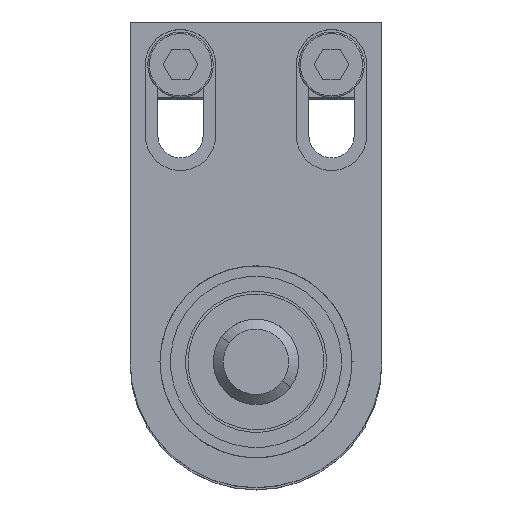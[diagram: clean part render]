
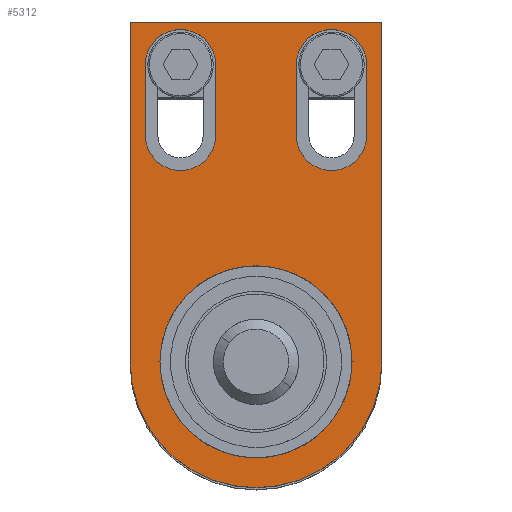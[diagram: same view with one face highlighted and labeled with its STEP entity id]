
A CAD part, top view. The second image highlights one B-rep face of the part: STEP entity #5312.
In plain terms, the highlighted planar face has unit normal (0, 0, 1).
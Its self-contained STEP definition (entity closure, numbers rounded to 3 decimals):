
#25 = CIRCLE ( 'NONE', #4679, 7. ) ;
#43 = VERTEX_POINT ( 'NONE', #5862 ) ;
#89 = ORIENTED_EDGE ( 'NONE', *, *, #1097, .F. ) ;
#227 = DIRECTION ( 'NONE',  ( 0., 0., 1. ) ) ;
#281 = CARTESIAN_POINT ( 'NONE',  ( 25., 67.5, 6. ) ) ;
#457 = VERTEX_POINT ( 'NONE', #1744 ) ;
#491 = LINE ( 'NONE', #2581, #2169 ) ;
#501 = EDGE_CURVE ( 'NONE', #4038, #43, #25, .T. ) ;
#509 = EDGE_LOOP ( 'NONE', ( #1669, #4546, #971, #5605 ) ) ;
#563 = AXIS2_PLACEMENT_3D ( 'NONE', #4570, #1301, #5066 ) ;
#568 = EDGE_CURVE ( 'NONE', #2674, #1563, #1756, .T. ) ;
#625 = FACE_BOUND ( 'NONE', #3915, .T. ) ;
#725 = DIRECTION ( 'NONE',  ( 1., 0., 0. ) ) ;
#788 = CARTESIAN_POINT ( 'NONE',  ( -8., 59., 6. ) ) ;
#803 = CARTESIAN_POINT ( 'NONE',  ( -22., 45., 6. ) ) ;
#839 = VERTEX_POINT ( 'NONE', #4876 ) ;
#918 = CARTESIAN_POINT ( 'NONE',  ( -22., 59., 6. ) ) ;
#971 = ORIENTED_EDGE ( 'NONE', *, *, #3557, .F. ) ;
#985 = CARTESIAN_POINT ( 'NONE',  ( -25., 0., 6. ) ) ;
#1097 = EDGE_CURVE ( 'NONE', #3964, #2255, #2208, .T. ) ;
#1138 = DIRECTION ( 'NONE',  ( -1., 0., 0. ) ) ;
#1221 = DIRECTION ( 'NONE',  ( 1., 0., 0. ) ) ;
#1285 = DIRECTION ( 'NONE',  ( 0., 0., 1. ) ) ;
#1301 = DIRECTION ( 'NONE',  ( 0., 0., 1. ) ) ;
#1305 = DIRECTION ( 'NONE',  ( 0., 0., 1. ) ) ;
#1413 = EDGE_CURVE ( 'NONE', #43, #3964, #4771, .T. ) ;
#1483 = LINE ( 'NONE', #1619, #3052 ) ;
#1563 = VERTEX_POINT ( 'NONE', #3077 ) ;
#1619 = CARTESIAN_POINT ( 'NONE',  ( 25., 0., 6. ) ) ;
#1643 = VECTOR ( 'NONE', #2549, 1000. ) ;
#1669 = ORIENTED_EDGE ( 'NONE', *, *, #5812, .F. ) ;
#1744 = CARTESIAN_POINT ( 'NONE',  ( -19.079, 0., 6. ) ) ;
#1756 = LINE ( 'NONE', #985, #5259 ) ;
#1759 = CARTESIAN_POINT ( 'NONE',  ( 0., 0., 6. ) ) ;
#1784 = CIRCLE ( 'NONE', #1906, 7. ) ;
#1792 = VERTEX_POINT ( 'NONE', #788 ) ;
#1803 = LINE ( 'NONE', #3330, #5228 ) ;
#1821 = DIRECTION ( 'NONE',  ( 1., 0., 0. ) ) ;
#1854 = DIRECTION ( 'NONE',  ( 0., 0., 1. ) ) ;
#1863 = FACE_BOUND ( 'NONE', #509, .T. ) ;
#1865 = EDGE_CURVE ( 'NONE', #5556, #457, #5646, .T. ) ;
#1906 = AXIS2_PLACEMENT_3D ( 'NONE', #2112, #227, #725 ) ;
#1986 = VERTEX_POINT ( 'NONE', #4760 ) ;
#2051 = DIRECTION ( 'NONE',  ( 0., 1., 0. ) ) ;
#2067 = DIRECTION ( 'NONE',  ( 0., 0., 1. ) ) ;
#2084 = DIRECTION ( 'NONE',  ( 0., 0., 1. ) ) ;
#2095 = EDGE_CURVE ( 'NONE', #457, #5556, #5507, .T. ) ;
#2112 = CARTESIAN_POINT ( 'NONE',  ( -15., 59., 6. ) ) ;
#2169 = VECTOR ( 'NONE', #1138, 1000. ) ;
#2208 = CIRCLE ( 'NONE', #563, 7. ) ;
#2255 = VERTEX_POINT ( 'NONE', #5829 ) ;
#2288 = EDGE_LOOP ( 'NONE', ( #89, #3094, #5128, #4534 ) ) ;
#2300 = VERTEX_POINT ( 'NONE', #803 ) ;
#2343 = CARTESIAN_POINT ( 'NONE',  ( 0., 0., 6. ) ) ;
#2357 = AXIS2_PLACEMENT_3D ( 'NONE', #4525, #1305, #1821 ) ;
#2442 = AXIS2_PLACEMENT_3D ( 'NONE', #1759, #1285, #1221 ) ;
#2549 = DIRECTION ( 'NONE',  ( 0., -1., 0. ) ) ;
#2555 = DIRECTION ( 'NONE',  ( 1., 0., 0. ) ) ;
#2581 = CARTESIAN_POINT ( 'NONE',  ( 25., 67.5, 6. ) ) ;
#2674 = VERTEX_POINT ( 'NONE', #5967 ) ;
#2677 = VERTEX_POINT ( 'NONE', #918 ) ;
#2760 = CARTESIAN_POINT ( 'NONE',  ( 15., 45., 6. ) ) ;
#2793 = AXIS2_PLACEMENT_3D ( 'NONE', #2343, #1854, #3235 ) ;
#3037 = AXIS2_PLACEMENT_3D ( 'NONE', #4371, #2084, #3934 ) ;
#3052 = VECTOR ( 'NONE', #4357, 1000. ) ;
#3077 = CARTESIAN_POINT ( 'NONE',  ( -25., 0., 6. ) ) ;
#3094 = ORIENTED_EDGE ( 'NONE', *, *, #1413, .F. ) ;
#3114 = VECTOR ( 'NONE', #2051, 1000. ) ;
#3116 = FACE_OUTER_BOUND ( 'NONE', #4920, .T. ) ;
#3130 = EDGE_CURVE ( 'NONE', #1986, #1792, #3277, .T. ) ;
#3232 = ORIENTED_EDGE ( 'NONE', *, *, #1865, .F. ) ;
#3235 = DIRECTION ( 'NONE',  ( 1., 0., 0. ) ) ;
#3277 = LINE ( 'NONE', #4832, #4488 ) ;
#3330 = CARTESIAN_POINT ( 'NONE',  ( -22., 59., 6. ) ) ;
#3394 = ORIENTED_EDGE ( 'NONE', *, *, #4635, .T. ) ;
#3466 = CARTESIAN_POINT ( 'NONE',  ( 8., 59., 6. ) ) ;
#3557 = EDGE_CURVE ( 'NONE', #2300, #1986, #5068, .T. ) ;
#3594 = EDGE_CURVE ( 'NONE', #2677, #2300, #1803, .T. ) ;
#3597 = CARTESIAN_POINT ( 'NONE',  ( 8., 45., 6. ) ) ;
#3744 = DIRECTION ( 'NONE',  ( 0., -1., 0. ) ) ;
#3915 = EDGE_LOOP ( 'NONE', ( #4807, #3232 ) ) ;
#3917 = PLANE ( 'NONE',  #4431 ) ;
#3934 = DIRECTION ( 'NONE',  ( 1., 0., 0. ) ) ;
#3942 = ORIENTED_EDGE ( 'NONE', *, *, #5252, .T. ) ;
#3943 = CARTESIAN_POINT ( 'NONE',  ( 22., 59., 6. ) ) ;
#3958 = EDGE_CURVE ( 'NONE', #5106, #2674, #491, .T. ) ;
#3964 = VERTEX_POINT ( 'NONE', #3943 ) ;
#4038 = VERTEX_POINT ( 'NONE', #3597 ) ;
#4250 = DIRECTION ( 'NONE',  ( 0., -1., 0. ) ) ;
#4326 = DIRECTION ( 'NONE',  ( 0., 1., 0. ) ) ;
#4357 = DIRECTION ( 'NONE',  ( 0., 1., 0. ) ) ;
#4371 = CARTESIAN_POINT ( 'NONE',  ( 0., 0., 6. ) ) ;
#4372 = CARTESIAN_POINT ( 'NONE',  ( 0., 0., 6. ) ) ;
#4409 = FACE_BOUND ( 'NONE', #2288, .T. ) ;
#4431 = AXIS2_PLACEMENT_3D ( 'NONE', #4372, #2067, #2555 ) ;
#4488 = VECTOR ( 'NONE', #4326, 1000. ) ;
#4525 = CARTESIAN_POINT ( 'NONE',  ( -15., 45., 6. ) ) ;
#4529 = EDGE_CURVE ( 'NONE', #2255, #4038, #5882, .T. ) ;
#4534 = ORIENTED_EDGE ( 'NONE', *, *, #4529, .F. ) ;
#4546 = ORIENTED_EDGE ( 'NONE', *, *, #3130, .F. ) ;
#4570 = CARTESIAN_POINT ( 'NONE',  ( 15., 59., 6. ) ) ;
#4635 = EDGE_CURVE ( 'NONE', #1563, #839, #5290, .T. ) ;
#4679 = AXIS2_PLACEMENT_3D ( 'NONE', #2760, #5534, #5469 ) ;
#4760 = CARTESIAN_POINT ( 'NONE',  ( -8., 45., 6. ) ) ;
#4771 = LINE ( 'NONE', #5769, #3114 ) ;
#4807 = ORIENTED_EDGE ( 'NONE', *, *, #2095, .F. ) ;
#4832 = CARTESIAN_POINT ( 'NONE',  ( -8., 59., 6. ) ) ;
#4876 = CARTESIAN_POINT ( 'NONE',  ( 25., 0., 6. ) ) ;
#4920 = EDGE_LOOP ( 'NONE', ( #3394, #3942, #5211, #5763 ) ) ;
#5066 = DIRECTION ( 'NONE',  ( 1., 0., 0. ) ) ;
#5068 = CIRCLE ( 'NONE', #2357, 7. ) ;
#5106 = VERTEX_POINT ( 'NONE', #281 ) ;
#5128 = ORIENTED_EDGE ( 'NONE', *, *, #501, .F. ) ;
#5211 = ORIENTED_EDGE ( 'NONE', *, *, #3958, .T. ) ;
#5228 = VECTOR ( 'NONE', #3744, 1000. ) ;
#5252 = EDGE_CURVE ( 'NONE', #839, #5106, #1483, .T. ) ;
#5259 = VECTOR ( 'NONE', #4250, 1000. ) ;
#5290 = CIRCLE ( 'NONE', #2442, 25. ) ;
#5312 = ADVANCED_FACE ( 'NONE', ( #4409, #1863, #625, #3116 ), #3917, .T. ) ;
#5469 = DIRECTION ( 'NONE',  ( 1., 0., 0. ) ) ;
#5507 = CIRCLE ( 'NONE', #3037, 19.079 ) ;
#5534 = DIRECTION ( 'NONE',  ( 0., 0., 1. ) ) ;
#5552 = CARTESIAN_POINT ( 'NONE',  ( 19.079, 0., 6. ) ) ;
#5556 = VERTEX_POINT ( 'NONE', #5552 ) ;
#5605 = ORIENTED_EDGE ( 'NONE', *, *, #3594, .F. ) ;
#5646 = CIRCLE ( 'NONE', #2793, 19.079 ) ;
#5763 = ORIENTED_EDGE ( 'NONE', *, *, #568, .T. ) ;
#5769 = CARTESIAN_POINT ( 'NONE',  ( 22., 59., 6. ) ) ;
#5812 = EDGE_CURVE ( 'NONE', #1792, #2677, #1784, .T. ) ;
#5829 = CARTESIAN_POINT ( 'NONE',  ( 8., 59., 6. ) ) ;
#5862 = CARTESIAN_POINT ( 'NONE',  ( 22., 45., 6. ) ) ;
#5882 = LINE ( 'NONE', #3466, #1643 ) ;
#5967 = CARTESIAN_POINT ( 'NONE',  ( -25., 67.5, 6. ) ) ;
